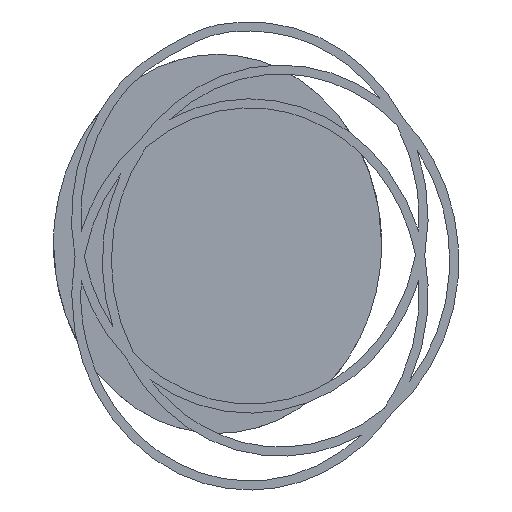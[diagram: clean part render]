
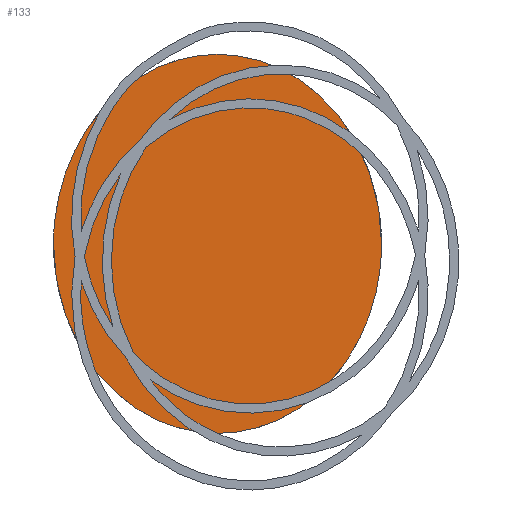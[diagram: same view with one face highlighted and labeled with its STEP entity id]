
A CAD part, front view. The second image highlights one B-rep face of the part: STEP entity #133.
In plain terms, the highlighted planar face has unit normal (0, -1, 0).
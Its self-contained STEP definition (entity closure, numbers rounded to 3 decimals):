
#133=ADVANCED_FACE('',(#167),#568,.T.);
#167=FACE_OUTER_BOUND('',#201,.T.);
#201=EDGE_LOOP('',(#253,#254));
#253=ORIENTED_EDGE('',*,*,#417,.T.);
#254=ORIENTED_EDGE('',*,*,#420,.T.);
#417=EDGE_CURVE('',#512,#514,#501,.T.);
#420=EDGE_CURVE('',#514,#512,#504,.T.);
#501=(
BOUNDED_CURVE()
B_SPLINE_CURVE(2,(#648,#649,#650,#651,#652),.UNSPECIFIED.,.F.,.F.)
B_SPLINE_CURVE_WITH_KNOTS((3,2,3),(0.,1.571,3.142),
 .UNSPECIFIED.)
CURVE()
GEOMETRIC_REPRESENTATION_ITEM()
RATIONAL_B_SPLINE_CURVE((1.,0.707,1.,0.707,1.))
REPRESENTATION_ITEM('')
);
#504=(
BOUNDED_CURVE()
B_SPLINE_CURVE(2,(#660,#661,#662,#663,#664),.UNSPECIFIED.,.F.,.F.)
B_SPLINE_CURVE_WITH_KNOTS((3,2,3),(3.142,4.712,6.283),
 .UNSPECIFIED.)
CURVE()
GEOMETRIC_REPRESENTATION_ITEM()
RATIONAL_B_SPLINE_CURVE((1.,0.707,1.,0.707,1.))
REPRESENTATION_ITEM('')
);
#512=VERTEX_POINT('',#638);
#514=VERTEX_POINT('',#640);
#568=PLANE('',#598);
#598=AXIS2_PLACEMENT_3D('',#626,#607,$);
#607=DIRECTION('',(0.,-1.,0.));
#626=CARTESIAN_POINT('',(-564.852,-2.704,1150.038));
#638=CARTESIAN_POINT('',(456.37,-2.704,1805.582));
#640=CARTESIAN_POINT('',(-451.383,-2.704,1805.582));
#648=CARTESIAN_POINT('',(456.37,-2.704,1805.582));
#649=CARTESIAN_POINT('',(456.37,-2.704,2330.017));
#650=CARTESIAN_POINT('',(2.493,-2.704,2330.017));
#651=CARTESIAN_POINT('',(-451.383,-2.704,2330.017));
#652=CARTESIAN_POINT('',(-451.383,-2.704,1805.582));
#660=CARTESIAN_POINT('',(-451.383,-2.704,1805.582));
#661=CARTESIAN_POINT('',(-451.383,-2.704,1281.147));
#662=CARTESIAN_POINT('',(2.493,-2.704,1281.147));
#663=CARTESIAN_POINT('',(456.37,-2.704,1281.147));
#664=CARTESIAN_POINT('',(456.37,-2.704,1805.582));
